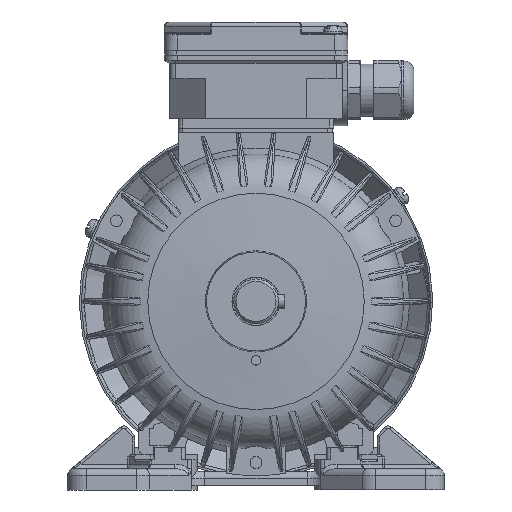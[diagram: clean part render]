
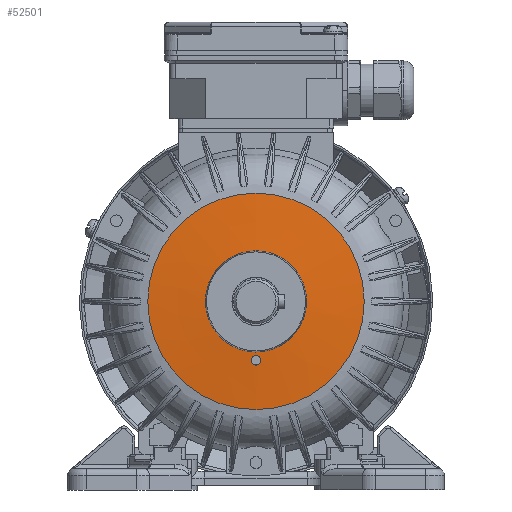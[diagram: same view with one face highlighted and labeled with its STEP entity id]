
A CAD part, left-side view. The second image highlights one B-rep face of the part: STEP entity #52501.
In plain terms, the highlighted conical face has half-angle 85.5 degrees and reference radius 21.472 mm.
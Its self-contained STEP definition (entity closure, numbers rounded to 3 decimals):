
#1548=B_SPLINE_CURVE_WITH_KNOTS('',3,(#116920,#116921,#116922,#116923,#116924,
#116925,#116926,#116927,#116928,#116929,#116930),.UNSPECIFIED.,.T.,.F.,
(1,1,1,1,1,1,1,1,1,1,1,1,1,1,1),(-0.005,-0.003,
-0.002,0.,0.002,0.003,
0.005,0.006,0.008,0.009,
0.011,0.013,0.014,0.016,
0.017),.UNSPECIFIED.);
#2018=CONICAL_SURFACE('',#77528,21.472,1.492);
#25962=ORIENTED_EDGE('',*,*,#34709,.T.);
#25963=ORIENTED_EDGE('',*,*,#34803,.F.);
#25964=ORIENTED_EDGE('',*,*,#34708,.T.);
#34708=EDGE_CURVE('',#40222,#40222,#1548,.T.);
#34709=EDGE_CURVE('',#40223,#40223,#42881,.T.);
#34803=EDGE_CURVE('',#40275,#40275,#42921,.T.);
#40222=VERTEX_POINT('',#116931);
#40223=VERTEX_POINT('',#116934);
#40275=VERTEX_POINT('',#117195);
#42881=CIRCLE('',#77446,45.912);
#42921=CIRCLE('',#77529,21.472);
#46114=EDGE_LOOP('',(#25962));
#46115=EDGE_LOOP('',(#25963));
#46116=EDGE_LOOP('',(#25964));
#49502=FACE_BOUND('',#46114,.T.);
#49503=FACE_BOUND('',#46115,.T.);
#49504=FACE_BOUND('',#46116,.T.);
#52501=ADVANCED_FACE('',(#49502,#49503,#49504),#2018,.T.);
#77446=AXIS2_PLACEMENT_3D('',#116933,#90609,#90610);
#77528=AXIS2_PLACEMENT_3D('',#117193,#90809,#90810);
#77529=AXIS2_PLACEMENT_3D('',#117194,#90811,#90812);
#90609=DIRECTION('',(-1.,0.,0.));
#90610=DIRECTION('',(0.,0.,-1.));
#90809=DIRECTION('',(1.,0.,0.));
#90810=DIRECTION('',(0.,0.,1.));
#90811=DIRECTION('',(-1.,0.,0.));
#90812=DIRECTION('',(0.,0.,-1.));
#116920=CARTESIAN_POINT('',(-34.549,-0.01,-27.218));
#116921=CARTESIAN_POINT('',(-34.596,1.564,-26.571));
#116922=CARTESIAN_POINT('',(-34.714,2.215,-25.007));
#116923=CARTESIAN_POINT('',(-34.841,1.576,-23.442));
#116924=CARTESIAN_POINT('',(-34.899,0.01,-22.782));
#116925=CARTESIAN_POINT('',(-34.843,-1.563,-23.429));
#116926=CARTESIAN_POINT('',(-34.715,-2.215,-24.989));
#116927=CARTESIAN_POINT('',(-34.597,-1.577,-26.558));
#116928=CARTESIAN_POINT('',(-34.549,-0.01,-27.218));
#116929=CARTESIAN_POINT('',(-34.596,1.564,-26.571));
#116930=CARTESIAN_POINT('',(-34.714,2.215,-25.007));
#116931=CARTESIAN_POINT('',(-34.608,1.41,-26.418));
#116933=CARTESIAN_POINT('',(-33.077,0.,0.));
#116934=CARTESIAN_POINT('',(-33.077,0.,-45.912));
#117193=CARTESIAN_POINT('',(-35.,0.,0.));
#117194=CARTESIAN_POINT('',(-35.,0.,0.));
#117195=CARTESIAN_POINT('',(-35.,0.,-21.472));
